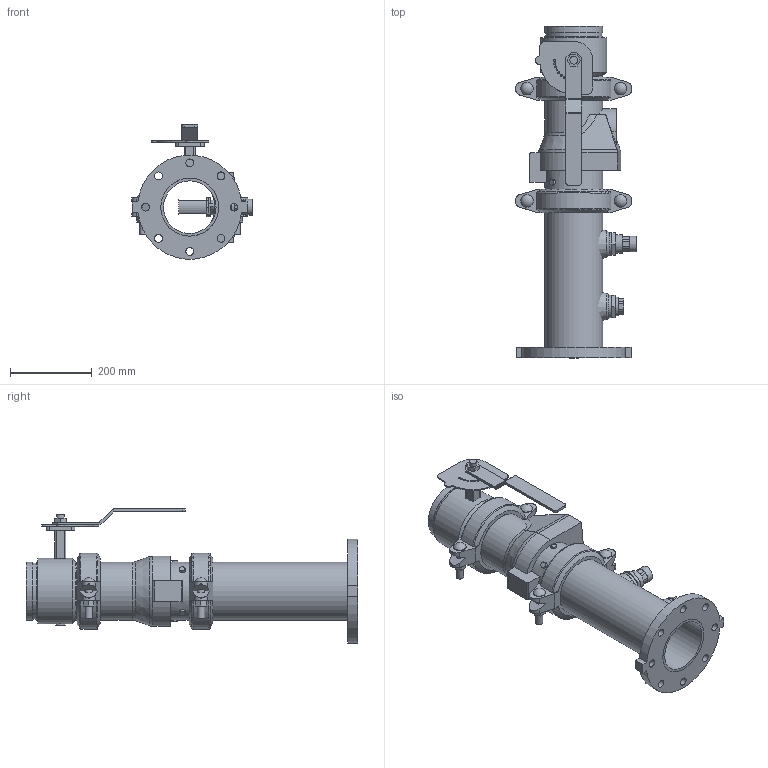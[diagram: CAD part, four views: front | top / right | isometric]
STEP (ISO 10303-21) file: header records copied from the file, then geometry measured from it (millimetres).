
FILE_DESCRIPTION(/* description */ ('VIC DVI PUMP DROP VERT S/380 (OGSxFLG) (S/924-0.75)','CAx-IF Rec.Pracs.---Representation and Presentation of Product Manufacturing Information (PMI)---4.0---2014-10-13'),/* implementation_level */ '2;1');
FILE_NAME(/* name */ 'C:\Users\Public\Documents\Victaulic.Temp\A765\Victaulic_IPS_Vertical DVI_CL 150_Series 380 (OGSxFLG)_924 (0.75)_05.0x05.0 (125x125).stp',/* time_stamp */ '2022-07-25T11:11:46+02:00',/* author */ ('Vjadhav'),/* organization */ ('Victaulic'),/* preprocessor_version */ 'ST-DEVELOPER v18',/* originating_system */ 'Autodesk Inventor 2020',/* authorisation */ '');
FILE_SCHEMA (('AP242_MANAGED_MODEL_BASED_3D_ENGINEERING_MIM_LF { 1 0 10303 442 1 1 4 }'));
Length unit declared in the file: inch
Products named in the file (8): 380_924 (0.75)-05.0x05.0; 741-05.0; Pipe-05.0x05.0; 177N-05.0; 761-05.0; 779-05.0; 923-04.0x0.75; 924-04.0x0.75
Assembly tree (8 placements, depth 2):
  380_924 (0.75)-05.0x05.0
    741-05.0
    Pipe-05.0x05.0
    177N-05.0  x2
    761-05.0
    779-05.0
    923-04.0x0.75
    924-04.0x0.75
Bounding box: 294.96 x 809.62 x 326.93 mm (x, y, z)
Volume: 7071669.9 mm3; surface area: 1239791.8 mm2
Topology: 8 solids, 9 shells, 484 faces, 1256 edges, 840 vertices
Faces by surface type: plane 283, cylinder 167, cone 14, torus 14, sphere 4, bspline 2
Full cylindrical faces by diameter (mm): 4.826 x10, 8.636 x4, 13.716 x4, 17.78 x4, 19.05 x10, 22.86 x1, 26.67 x2, 30.48 x4, 38.608 x1, 45.974 x4, 55.118 x1, 55.626 x2, 128.194 x3, 128.6 x2, 137.033 x6, 141.3 x16, 160.02 x1
Entity records: 13483 total; most frequent: CARTESIAN_POINT 2700, DIRECTION 2213, ORIENTED_EDGE 2030, EDGE_CURVE 1015, AXIS2_PLACEMENT_3D 833, VERTEX_POINT 680, LINE 547, VECTOR 547
